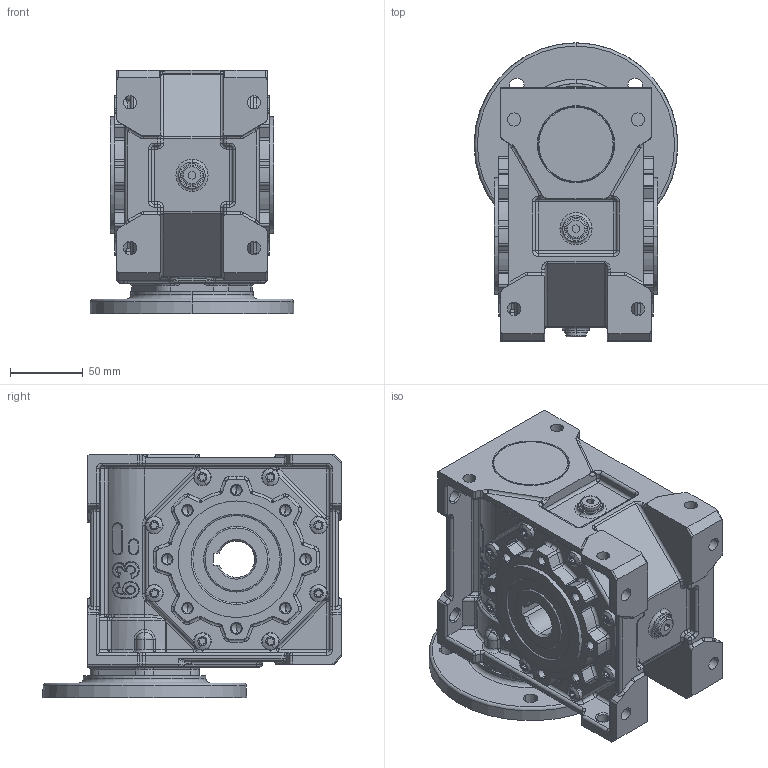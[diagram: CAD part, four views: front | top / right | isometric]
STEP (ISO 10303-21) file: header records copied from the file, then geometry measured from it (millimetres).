
FILE_DESCRIPTION (( 'STEP AP214' ), '1' );
FILE_NAME ('MKT63-FTRL-71-115.STEP', '2006-05-09T11:27:06', ( '' ), ( '' ), 'SwSTEP 2.0', 'SolidWorks 2004146', '' );
FILE_SCHEMA (( 'AUTOMOTIVE_DESIGN' ));
Length unit declared in the file: millimetre
Products named in the file (4): Pøíruba MRT80 kulatá _95-115-140; D6912_Šroub DIN 6912 - M6x25; Skrin MKT63_MKT63 AP71; MKT63-FTRL-71-115
Assembly tree (8 placements, depth 2):
  MKT63-FTRL-71-115
    Skrin MKT63_MKT63 AP71
    D6912_Šroub DIN 6912 - M6x25  x6
    Pøíruba MRT80 kulatá _95-115-140
Bounding box: 140 x 205 x 167 mm (x, y, z)
Volume: 2097252.2 mm3; surface area: 223179.3 mm2
Topology: 8 solids, 8 shells, 2017 faces, 4820 edges, 2803 vertices
Faces by surface type: cylinder 792, plane 368, torus 325, cone 220, bspline 182, sphere 130
Entity records: 180840 total; most frequent: CARTESIAN_POINT 134523, DIRECTION 9460, ORIENTED_EDGE 8730, EDGE_CURVE 4365, AXIS2_PLACEMENT_3D 3955, VERTEX_POINT 2628, CIRCLE 2294, EDGE_LOOP 1973
